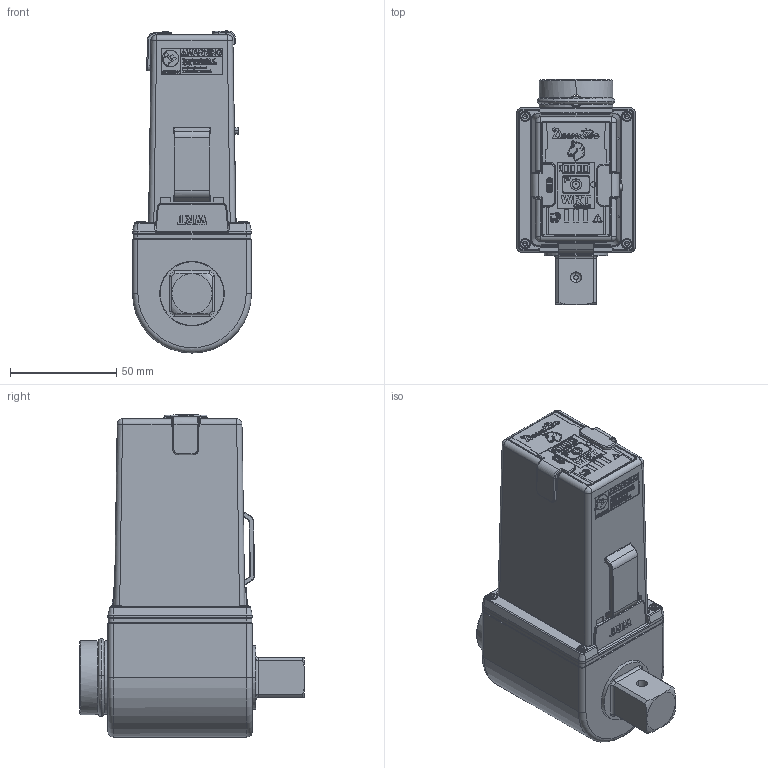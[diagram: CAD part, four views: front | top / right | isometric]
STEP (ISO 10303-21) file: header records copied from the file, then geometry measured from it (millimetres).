
FILE_DESCRIPTION((''),'2;1');
FILE_NAME('6152210570_DIM','2024-03-01T15:15:26',('S00000450'),(''),'CREO PARAMETRIC BY PTC INC, 2023254','CREO PARAMETRIC BY PTC INC, 2023254','');
FILE_SCHEMA(('AP242_MANAGED_MODEL_BASED_3D_ENGINEERING_MIM_LF { 1 0 10303 442 1 1 4 }'));
Products named in the file (1): 6152210570_DIM
Bounding box: 56 x 106 x 151.77 mm (x, y, z)
Volume: 169033.3 mm3; surface area: 110347.7 mm2
Topology: 5 solids, 5 shells, 4901 faces, 13236 edges, 8526 vertices
Faces by surface type: plane 2132, extrusion 1337, cylinder 758, cone 322, torus 196, bspline 135, sphere 21
Entity records: 194554 total; most frequent: CARTESIAN_POINT 56832, ORIENTED_EDGE 26342, DIRECTION 19885, EDGE_CURVE 13171, VECTOR 9031, VERTEX_POINT 8526, LINE 7694, AXIS2_PLACEMENT_3D 5427
